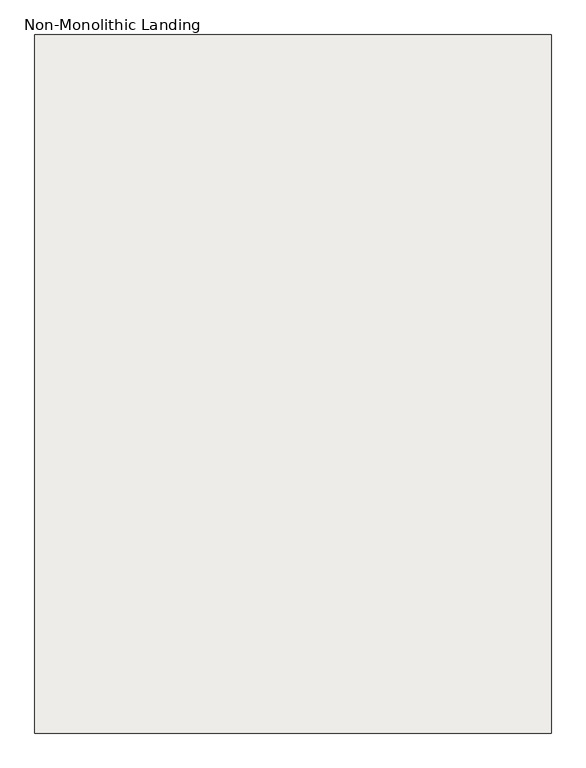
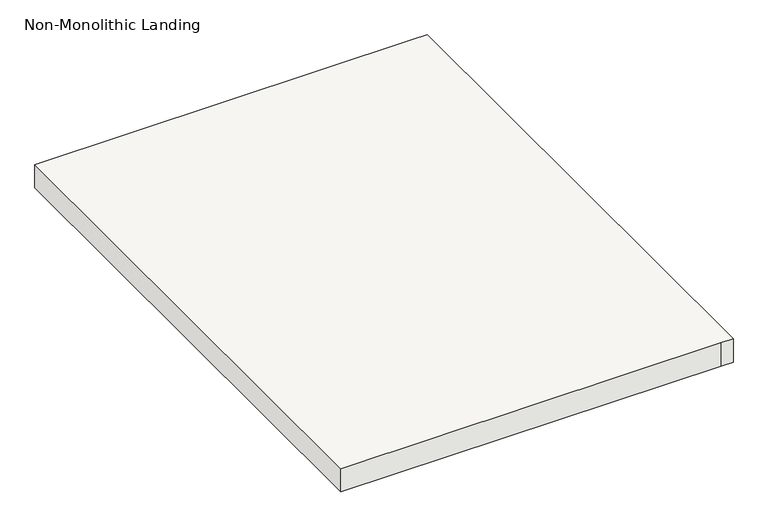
"""IFC4 building model written with IfcOpenShell, lengths in millimetres: slab geometry, Non-Monolithic Landing."""

from ifc_helpers import new_model, si_unit, frame, origin, place, context, project, spatial, polyline, outline, extrude, source, transform, mapped, element, save


def non_monolithic_landing_f369c329(model_context):
    return source(origin(), model_context, "Body", "SweptSolid", [
        extrude(outline(polyline([(-10775.6813244, 9475.3913722), (-9988.2813244, 9475.3913722), (-9962.8813244, 9475.3913722), (-9962.8813244, 8376.9937722), (-9988.2813244, 8376.9937722), (-10775.6813244, 8376.9937722), (-10775.6813244, 9475.3913722)])), frame((0.0, 0.0, 1690.9142857), z_axis=(0.0, 0.0, 1.0), x_axis=(1.0, 0.0, 0.0)), (0.0, 0.0, 1.0), 50.8),
    ])


if __name__ == "__main__":
    model = new_model("IFC4")
    model_context = context("Model", 3, world=origin())
    ifc_project = project(units=[si_unit("LENGTHUNIT", "METRE", prefix="MILLI")], contexts=[model_context])
    site = spatial("IfcSite", under=ifc_project)
    building = spatial("IfcBuilding", under=site)
    placement = place(None, origin())
    non_monolithic_landing_shape = non_monolithic_landing_f369c329(model_context)
    element("IfcSlab", 1, ObjectType="Non-Monolithic Landing", at=placement, inside=building, context=model_context, shape_type="MappedRepresentation", body=[
        mapped(non_monolithic_landing_shape, transform((0.0, 0.0, 0.0), x_axis=(1.0, 0.0, 0.0), y_axis=(0.0, 1.0, 0.0), z_axis=(0.0, 0.0, 1.0))),
    ])
    save(model, "model.ifc")
